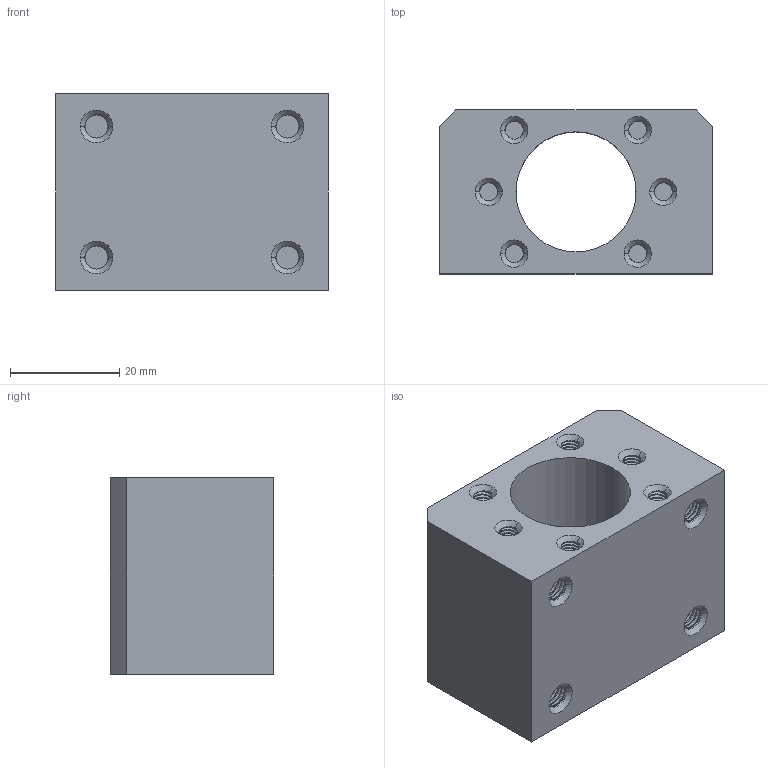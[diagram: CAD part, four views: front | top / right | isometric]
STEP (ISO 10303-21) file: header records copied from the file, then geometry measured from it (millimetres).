
FILE_DESCRIPTION (( 'STEP AP214' ), '1' );
FILE_NAME ('DSG1204.STEP', '2026-09-03T10:58:38', ( '' ), ( '' ), 'SwSTEP 2.0', 'SolidWorks 2019', '' );
FILE_SCHEMA (( 'AUTOMOTIVE_DESIGN' ));
Length unit declared in the file: millimetre
Products named in the file (1): DSG1204
Bounding box: 50 x 30 x 36 mm (x, y, z)
Volume: 38529.8 mm3; surface area: 12534.5 mm2
Topology: 1 solids, 1 shells, 718 faces, 2068 edges, 1372 vertices
Faces by surface type: cylinder 572, plane 81, bspline 45, cone 20
Entity records: 51211 total; most frequent: CARTESIAN_POINT 33973, ORIENTED_EDGE 4136, DIRECTION 2288, EDGE_CURVE 2068, VERTEX_POINT 1372, B_SPLINE_CURVE_WITH_KNOTS 1226, AXIS2_PLACEMENT_3D 772, VECTOR 744
